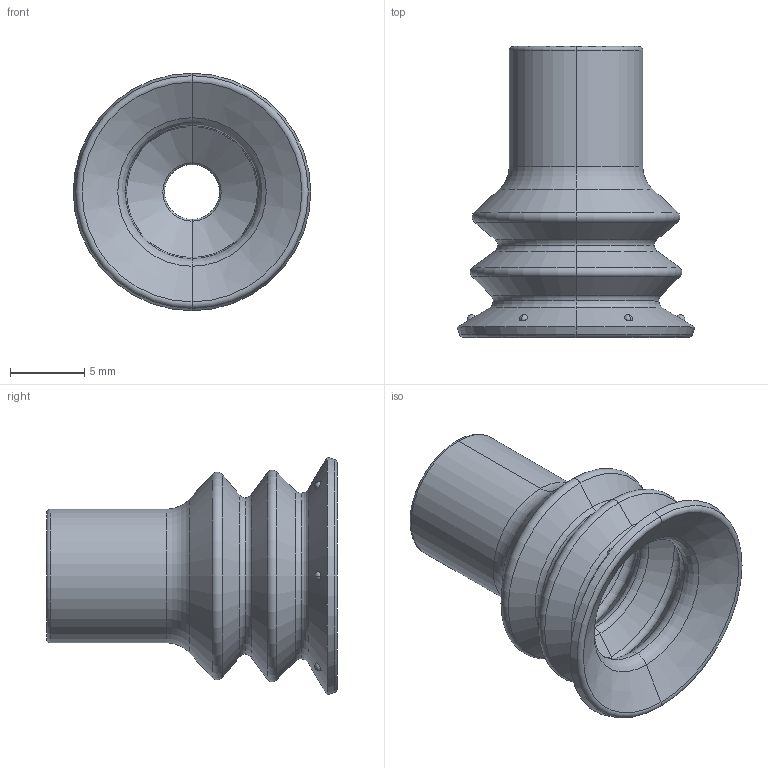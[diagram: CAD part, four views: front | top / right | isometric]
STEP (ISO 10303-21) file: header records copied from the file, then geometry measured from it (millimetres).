
FILE_DESCRIPTION (( 'STEP AP203' ), '1' );
FILE_NAME ('96C_15PU--A.STEP', '2018-05-03T08:56:01', ( '' ), ( '' ), 'SwSTEP 2.0', 'SolidWorks 2016', '' );
FILE_SCHEMA (( 'CONFIG_CONTROL_DESIGN' ));
Length unit declared in the file: millimetre
Products named in the file (1): 96C_15PU--A
Bounding box: 16 x 19.6 x 16 mm (x, y, z)
Volume: 899 mm3; surface area: 1558.9 mm2
Topology: 1 solids, 1 shells, 80 faces, 160 edges, 88 vertices
Faces by surface type: torus 38, cone 24, sphere 12, cylinder 4, plane 2
Entity records: 2241 total; most frequent: CARTESIAN_POINT 437, DIRECTION 430, ORIENTED_EDGE 320, AXIS2_PLACEMENT_3D 201, EDGE_CURVE 160, CIRCLE 120, EDGE_LOOP 88, VERTEX_POINT 88
